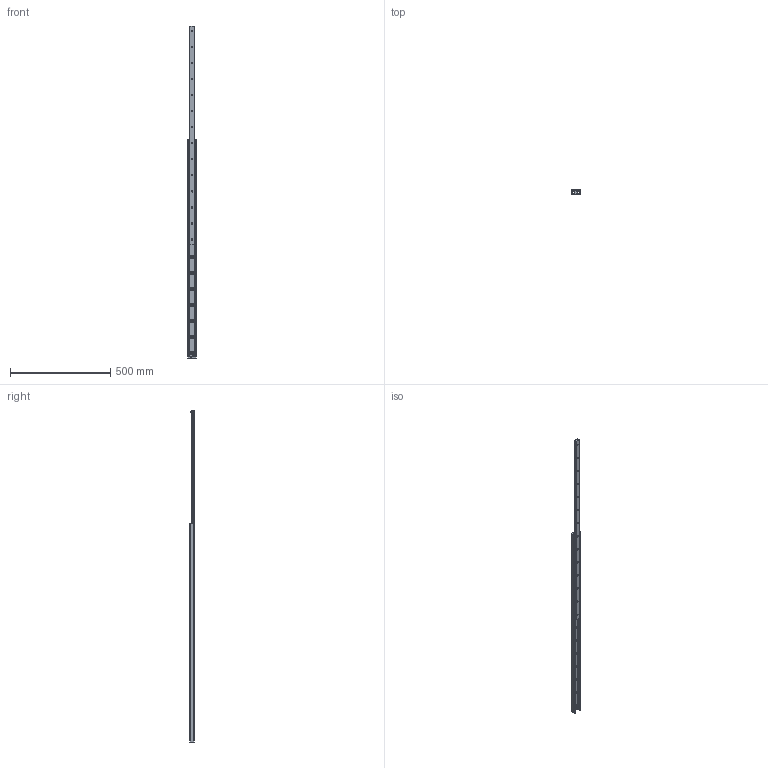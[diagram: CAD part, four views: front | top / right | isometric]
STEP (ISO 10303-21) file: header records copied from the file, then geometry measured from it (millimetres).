
FILE_DESCRIPTION(('STEP AP214'),'1');
FILE_NAME('rail_asn43-1090_01.stp','2017-06-06T10:19:38',('TraceParts'),('TraceParts S.A.'),'Spatial InterOp 3D',' ',' ');
FILE_SCHEMA(('automotive_design'));
Length unit declared in the file: millimetre
Products named in the file (2): rail_asn43-1090_01_1; rail_asn43-1090_01_2
Bounding box: 43 x 22.01 x 1658 mm (x, y, z)
Volume: 663473.9 mm3; surface area: 256980.3 mm2
Topology: 2 solids, 2 shells, 217 faces, 540 edges, 332 vertices
Faces by surface type: cylinder 87, cone 84, plane 46
Entity records: 6602 total; most frequent: DIRECTION 1236, CARTESIAN_POINT 1091, ORIENTED_EDGE 1080, EDGE_CURVE 540, AXIS2_PLACEMENT_3D 477, VERTEX_POINT 332, LINE 282, VECTOR 282
